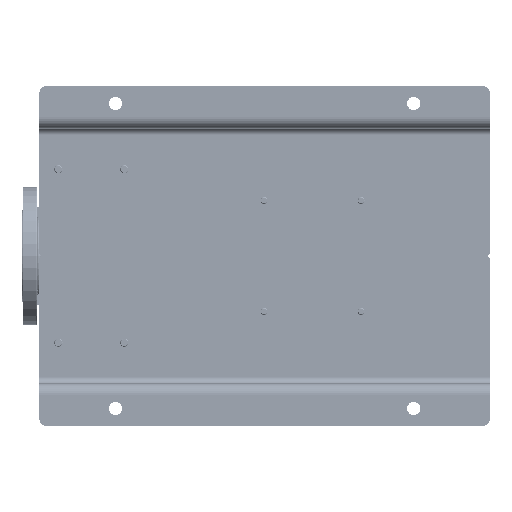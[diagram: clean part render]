
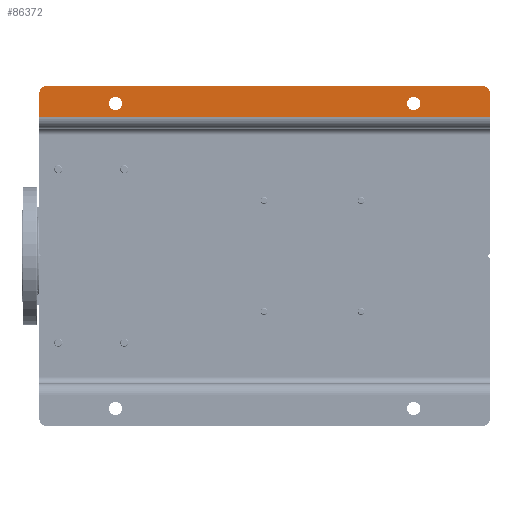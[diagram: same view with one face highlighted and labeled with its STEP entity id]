
A CAD part, front view. The second image highlights one B-rep face of the part: STEP entity #86372.
In plain terms, the highlighted planar face has unit normal (0, -1, 0).
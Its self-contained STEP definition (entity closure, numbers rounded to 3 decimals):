
#1701 = CARTESIAN_POINT ( 'NONE',  ( 474.5, 0., -540. ) ) ;
#2169 = VECTOR ( 'NONE', #172374, 1000. ) ;
#5013 = CIRCLE ( 'NONE', #54506, 10. ) ;
#6737 = CARTESIAN_POINT ( 'NONE',  ( 480., 0., -10. ) ) ;
#8743 = EDGE_CURVE ( 'NONE', #55571, #189812, #125806, .T. ) ;
#9367 = CARTESIAN_POINT ( 'NONE',  ( 445., 0., -650. ) ) ;
#11298 = ORIENTED_EDGE ( 'NONE', *, *, #140905, .F. ) ;
#18183 = VERTEX_POINT ( 'NONE', #86922 ) ;
#21469 = ORIENTED_EDGE ( 'NONE', *, *, #190792, .T. ) ;
#24110 = DIRECTION ( 'NONE',  ( 0., 0., -1. ) ) ;
#25038 = PLANE ( 'NONE',  #150143 ) ;
#26011 = DIRECTION ( 'NONE',  ( 0., -1., 0. ) ) ;
#29595 = CARTESIAN_POINT ( 'NONE',  ( 474.5, 0., -110. ) ) ;
#30376 = DIRECTION ( 'NONE',  ( 0., 0., 1. ) ) ;
#40818 = ORIENTED_EDGE ( 'NONE', *, *, #140898, .T. ) ;
#41618 = DIRECTION ( 'NONE',  ( 0., 0., -1. ) ) ;
#42347 = EDGE_CURVE ( 'NONE', #18183, #108929, #130208, .T. ) ;
#45054 = AXIS2_PLACEMENT_3D ( 'NONE', #73759, #101877, #132845 ) ;
#48278 = CARTESIAN_POINT ( 'NONE',  ( 445., 0., 0. ) ) ;
#54213 = CARTESIAN_POINT ( 'NONE',  ( 429., 0., 0. ) ) ;
#54506 = AXIS2_PLACEMENT_3D ( 'NONE', #114797, #72165, #104119 ) ;
#55571 = VERTEX_POINT ( 'NONE', #1701 ) ;
#56880 = LINE ( 'NONE', #175995, #138044 ) ;
#58640 = EDGE_CURVE ( 'NONE', #60041, #18183, #5013, .T. ) ;
#59655 = VERTEX_POINT ( 'NONE', #68676 ) ;
#60041 = VERTEX_POINT ( 'NONE', #95201 ) ;
#64045 = AXIS2_PLACEMENT_3D ( 'NONE', #129779, #115251, #97859 ) ;
#66980 = VECTOR ( 'NONE', #71690, 1000. ) ;
#68676 = CARTESIAN_POINT ( 'NONE',  ( 480., 0., 0. ) ) ;
#69655 = FACE_OUTER_BOUND ( 'NONE', #100172, .T. ) ;
#71690 = DIRECTION ( 'NONE',  ( 0., 0., -1. ) ) ;
#72165 = DIRECTION ( 'NONE',  ( 0., -1., 0. ) ) ;
#73759 = CARTESIAN_POINT ( 'NONE',  ( 465., 0., -110. ) ) ;
#76246 = ORIENTED_EDGE ( 'NONE', *, *, #133587, .T. ) ;
#76741 = ORIENTED_EDGE ( 'NONE', *, *, #58640, .T. ) ;
#77539 = DIRECTION ( 'NONE',  ( 0., -1., 0. ) ) ;
#81986 = VERTEX_POINT ( 'NONE', #125817 ) ;
#83909 = EDGE_LOOP ( 'NONE', ( #174042, #141320 ) ) ;
#85668 = AXIS2_PLACEMENT_3D ( 'NONE', #147027, #162479, #90812 ) ;
#86224 = LINE ( 'NONE', #159810, #66980 ) ;
#86372 = ADVANCED_FACE ( 'NONE', ( #187757, #144235, #69655 ), #25038, .T. ) ;
#86922 = CARTESIAN_POINT ( 'NONE',  ( 490., 0., -640. ) ) ;
#90812 = DIRECTION ( 'NONE',  ( 0., 0., -1. ) ) ;
#92512 = CIRCLE ( 'NONE', #179146, 9.5 ) ;
#92900 = VERTEX_POINT ( 'NONE', #29595 ) ;
#95201 = CARTESIAN_POINT ( 'NONE',  ( 480., 0., -650. ) ) ;
#97859 = DIRECTION ( 'NONE',  ( 0., 0., -1. ) ) ;
#100172 = EDGE_LOOP ( 'NONE', ( #11298, #21469, #165036, #76741, #133716, #76246 ) ) ;
#100638 = CARTESIAN_POINT ( 'NONE',  ( 429., 0., -650. ) ) ;
#101877 = DIRECTION ( 'NONE',  ( 0., 1., 0. ) ) ;
#104119 = DIRECTION ( 'NONE',  ( 0., 0., -1. ) ) ;
#108743 = EDGE_CURVE ( 'NONE', #189812, #55571, #92512, .T. ) ;
#108929 = VERTEX_POINT ( 'NONE', #159895 ) ;
#109956 = CIRCLE ( 'NONE', #45054, 9.5 ) ;
#114091 = DIRECTION ( 'NONE',  ( 1., 0., 0. ) ) ;
#114797 = CARTESIAN_POINT ( 'NONE',  ( 480., 0., -640. ) ) ;
#115251 = DIRECTION ( 'NONE',  ( 0., 1., 0. ) ) ;
#122781 = VERTEX_POINT ( 'NONE', #9367 ) ;
#125806 = CIRCLE ( 'NONE', #85668, 9.5 ) ;
#125817 = CARTESIAN_POINT ( 'NONE',  ( 455.5, 0., -110. ) ) ;
#129779 = CARTESIAN_POINT ( 'NONE',  ( 465., 0., -110. ) ) ;
#130208 = LINE ( 'NONE', #163080, #141664 ) ;
#132845 = DIRECTION ( 'NONE',  ( 0., 0., -1. ) ) ;
#133587 = EDGE_CURVE ( 'NONE', #108929, #59655, #137347, .T. ) ;
#133716 = ORIENTED_EDGE ( 'NONE', *, *, #42347, .T. ) ;
#136638 = DIRECTION ( 'NONE',  ( 0., 0., -1. ) ) ;
#137347 = CIRCLE ( 'NONE', #149674, 10. ) ;
#138044 = VECTOR ( 'NONE', #114091, 1000. ) ;
#138918 = EDGE_CURVE ( 'NONE', #92900, #81986, #109956, .T. ) ;
#140898 = EDGE_CURVE ( 'NONE', #81986, #92900, #184552, .T. ) ;
#140905 = EDGE_CURVE ( 'NONE', #141181, #59655, #174288, .T. ) ;
#141181 = VERTEX_POINT ( 'NONE', #48278 ) ;
#141320 = ORIENTED_EDGE ( 'NONE', *, *, #8743, .T. ) ;
#141664 = VECTOR ( 'NONE', #30376, 1000. ) ;
#144235 = FACE_BOUND ( 'NONE', #83909, .T. ) ;
#145054 = CARTESIAN_POINT ( 'NONE',  ( 455.5, 0., -540. ) ) ;
#147027 = CARTESIAN_POINT ( 'NONE',  ( 465., 0., -540. ) ) ;
#149674 = AXIS2_PLACEMENT_3D ( 'NONE', #6737, #77539, #136638 ) ;
#150143 = AXIS2_PLACEMENT_3D ( 'NONE', #100638, #26011, #24110 ) ;
#157881 = CARTESIAN_POINT ( 'NONE',  ( 465., 0., -540. ) ) ;
#159810 = CARTESIAN_POINT ( 'NONE',  ( 445., 0., -650. ) ) ;
#159895 = CARTESIAN_POINT ( 'NONE',  ( 490., 0., -10. ) ) ;
#162479 = DIRECTION ( 'NONE',  ( 0., 1., 0. ) ) ;
#163080 = CARTESIAN_POINT ( 'NONE',  ( 490., 0., -650. ) ) ;
#164671 = EDGE_LOOP ( 'NONE', ( #40818, #167428 ) ) ;
#165036 = ORIENTED_EDGE ( 'NONE', *, *, #189900, .T. ) ;
#167428 = ORIENTED_EDGE ( 'NONE', *, *, #138918, .T. ) ;
#172374 = DIRECTION ( 'NONE',  ( 1., 0., 0. ) ) ;
#172406 = DIRECTION ( 'NONE',  ( 0., 1., 0. ) ) ;
#174042 = ORIENTED_EDGE ( 'NONE', *, *, #108743, .T. ) ;
#174288 = LINE ( 'NONE', #54213, #2169 ) ;
#175995 = CARTESIAN_POINT ( 'NONE',  ( 429., 0., -650. ) ) ;
#179146 = AXIS2_PLACEMENT_3D ( 'NONE', #157881, #172406, #41618 ) ;
#184552 = CIRCLE ( 'NONE', #64045, 9.5 ) ;
#187757 = FACE_BOUND ( 'NONE', #164671, .T. ) ;
#189812 = VERTEX_POINT ( 'NONE', #145054 ) ;
#189900 = EDGE_CURVE ( 'NONE', #122781, #60041, #56880, .T. ) ;
#190792 = EDGE_CURVE ( 'NONE', #141181, #122781, #86224, .T. ) ;
